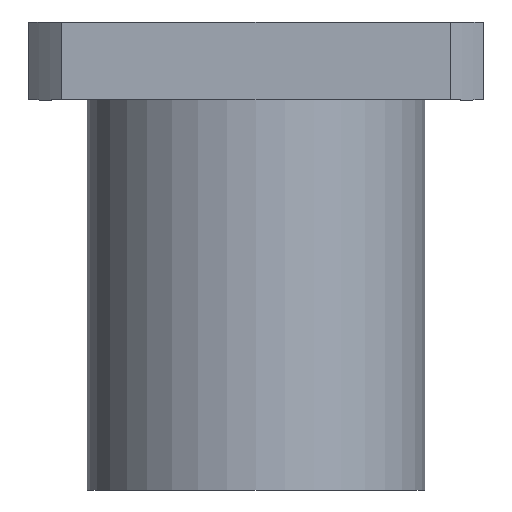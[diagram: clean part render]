
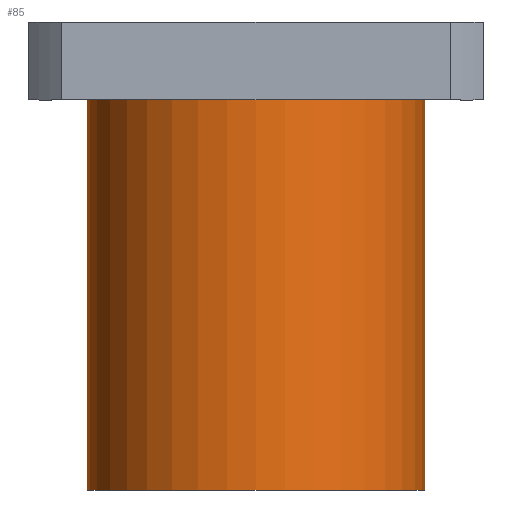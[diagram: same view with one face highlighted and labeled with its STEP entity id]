
A CAD part, front view. The second image highlights one B-rep face of the part: STEP entity #85.
In plain terms, the highlighted cylindrical face has radius 13 mm (diameter 26 mm), a partial arc.
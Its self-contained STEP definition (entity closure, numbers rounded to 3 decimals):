
#44=CARTESIAN_POINT('',(0.0,0.0,0.0));
#45=DIRECTION('',(0.0,0.0,1.0));
#46=DIRECTION('',(-1.0,0.0,0.0));
#47=AXIS2_PLACEMENT_3D('',#44,#45,#46);
#48=CYLINDRICAL_SURFACE('',#47,13.0);
#49=CARTESIAN_POINT('',(-13.0,0.,0.0));
#50=VERTEX_POINT('',#49);
#51=CARTESIAN_POINT('',(-13.0,0.,30.));
#52=VERTEX_POINT('',#51);
#53=CARTESIAN_POINT('',(-13.0,0.,0.0));
#54=DIRECTION('',(0.0,0.0,1.0));
#55=VECTOR('',#54,30.);
#56=LINE('',#53,#55);
#57=EDGE_CURVE('',#50,#52,#56,.T.);
#58=ORIENTED_EDGE('',*,*,#57,.F.);
#59=CARTESIAN_POINT('',(13.0,0.,0.0));
#60=VERTEX_POINT('',#59);
#61=CARTESIAN_POINT('',(0.0,0.0,0.0));
#62=DIRECTION('',(0.0,0.0,-1.0));
#63=DIRECTION('',(-1.0,0.0,0.0));
#64=AXIS2_PLACEMENT_3D('',#61,#62,#63);
#65=CIRCLE('',#64,13.0);
#66=EDGE_CURVE('',#60,#50,#65,.T.);
#67=ORIENTED_EDGE('',*,*,#66,.F.);
#68=CARTESIAN_POINT('',(13.0,0.,30.0));
#69=VERTEX_POINT('',#68);
#70=CARTESIAN_POINT('',(13.0,0.,30.0));
#71=DIRECTION('',(0.0,0.0,-1.0));
#72=VECTOR('',#71,30.0);
#73=LINE('',#70,#72);
#74=EDGE_CURVE('',#69,#60,#73,.T.);
#75=ORIENTED_EDGE('',*,*,#74,.F.);
#76=CARTESIAN_POINT('',(0.0,0.0,30.));
#77=DIRECTION('',(0.0,0.0,-1.0));
#78=DIRECTION('',(-1.0,0.0,0.0));
#79=AXIS2_PLACEMENT_3D('',#76,#77,#78);
#80=CIRCLE('',#79,13.0);
#81=EDGE_CURVE('',#69,#52,#80,.T.);
#82=ORIENTED_EDGE('',*,*,#81,.T.);
#83=EDGE_LOOP('',(#58,#67,#75,#82));
#84=FACE_OUTER_BOUND('',#83,.T.);
#85=ADVANCED_FACE('',(#84),#48,.T.);
